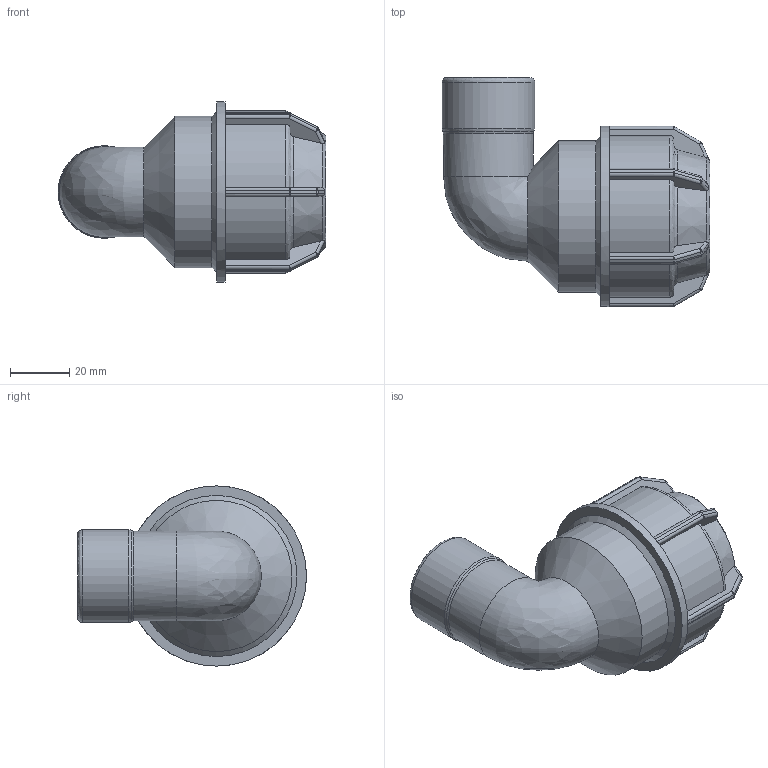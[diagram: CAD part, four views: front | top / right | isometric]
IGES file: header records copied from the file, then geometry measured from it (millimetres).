
Global section: file name: 141500032007.ipt; native system: Autodesk Inventor 2015; preprocessor: unknown; author: KIM; date: 20180409.131156; units: millimetre
Bounding box: 90.68 x 77.5 x 61 mm (x, y, z)
Volume: 98253.4 mm3; surface area: 29618.4 mm2
Topology: 1 solids, 1 shells, 213 faces, 515 edges, 300 vertices
Faces by surface type: plane 99, cylinder 58, sphere 24, revolution 23, cone 8, bspline 1
Full cylindrical faces by diameter (mm): 30.412 x1, 31.352 x1, 51.2 x1, 61 x1
